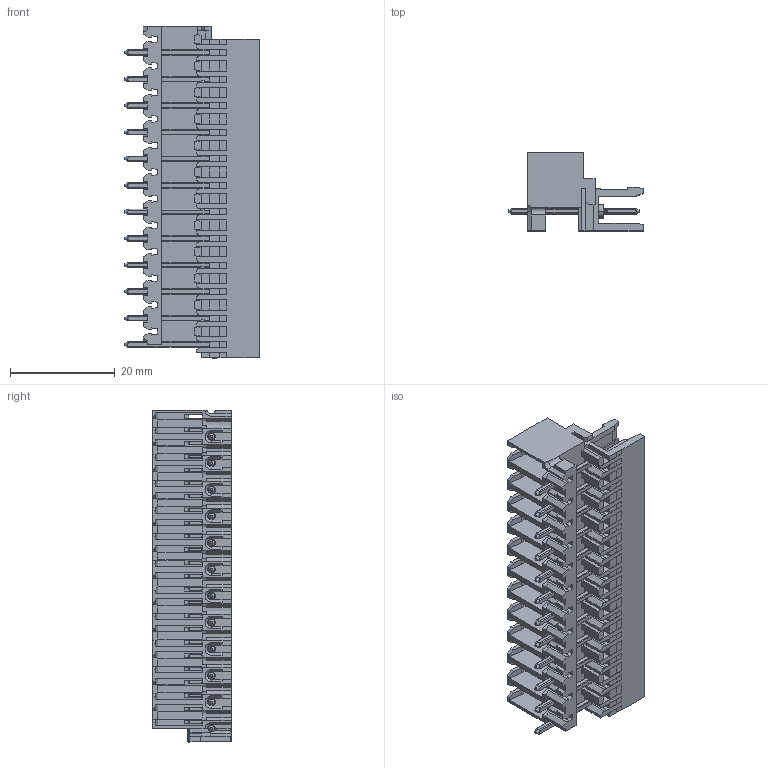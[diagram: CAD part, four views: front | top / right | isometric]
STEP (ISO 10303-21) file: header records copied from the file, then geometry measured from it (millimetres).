
FILE_DESCRIPTION (( 'STEP AP214' ), '1' );
FILE_NAME ('121-M-191-12.STEP', '2009-05-13T03:00:43', ( ' ' ), ( '' ), 'SwSTEP 2.0', 'SolidWorks 2007', '' );
FILE_SCHEMA (( 'AUTOMOTIVE_DESIGN' ));
Length unit declared in the file: millimetre
Products named in the file (1): 121-M-191-12
Bounding box: 25.7 x 15 x 63.5 mm (x, y, z)
Volume: 6087 mm3; surface area: 13368.4 mm2
Topology: 1 solids, 1 shells, 2314 faces, 7242 edges, 4686 vertices
Faces by surface type: plane 2157, cylinder 84, cone 73
Entity records: 79559 total; most frequent: CARTESIAN_POINT 15522, ORIENTED_EDGE 14446, DIRECTION 11830, EDGE_CURVE 7223, VECTOR 6694, LINE 6694, VERTEX_POINT 4676, AXIS2_PLACEMENT_3D 2568
